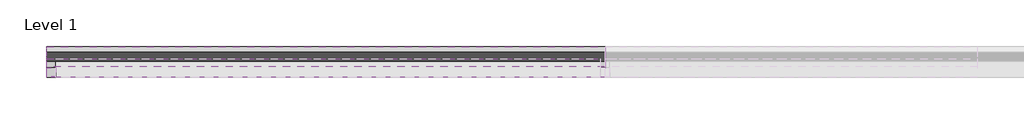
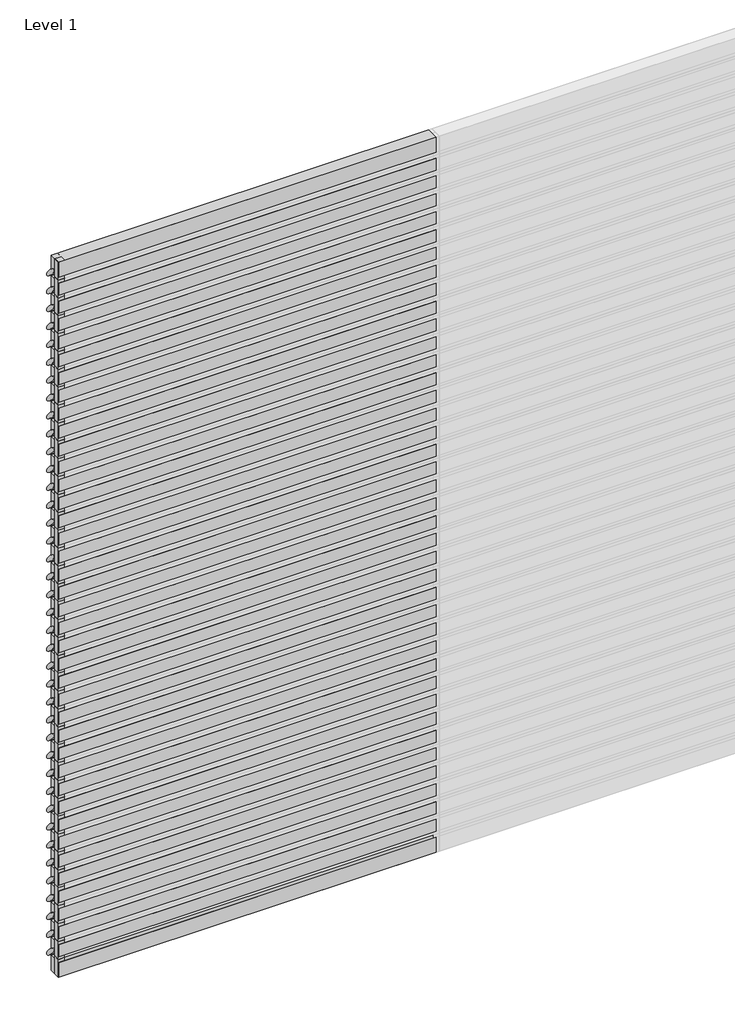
# One storey, part 1 of 3: 79 members, 41 plates.
"""IFC4 building model written with IfcOpenShell, lengths in millimetres."""

from ifc_helpers import new_model, si_unit, origin, place, context, project, spatial, transform, mapped, element, save
from components import rectangular_mullion_37c1fa86, rectangular_mullion_6265e8b1, empty_system_panel_empty_4bef3949, empty_system_panel_empty_2cee0f2e, empty_system_panel_empty_149e9d60

model = new_model("IFC4")

# Units and contexts
model_context = context("Model", 3, world=origin())
ifc_project = project(units=[si_unit("LENGTHUNIT", "METRE", prefix="MILLI")], contexts=[model_context])

# Site, building, storey
site = spatial("IfcSite", under=ifc_project)
building = spatial("IfcBuilding", under=site)
storey = spatial("IfcBuildingStorey", under=building, Name="Level 1", Elevation=0.0)

# Members
placement = place(None, origin())
rectangular_mullion_shape = rectangular_mullion_37c1fa86(model_context)
element("IfcMember", 1, ObjectType="Rectangular Mullion : RSen_21_CWM_blade - 150 ellips - 45°_gen_duco projects", at=placement, inside=storey, context=model_context, shape_type="MappedRepresentation", body=[
    mapped(rectangular_mullion_shape, transform((0.0, 3000.0, 150.0), x_axis=(0.0, 0.0, 1.0), y_axis=(0.0, 1.0, 0.0), z_axis=(-1.0, 0.0, 0.0))),
])
element("IfcMember", 2, ObjectType="Rectangular Mullion : RSen_21_CWM_blade - 150 ellips - 45°_gen_duco projects", at=placement, inside=storey, context=model_context, shape_type="MappedRepresentation", body=[
    mapped(rectangular_mullion_shape, transform((0.0, 3000.0, 300.0), x_axis=(0.0, 0.0, 1.0), y_axis=(0.0, 1.0, 0.0), z_axis=(-1.0, 0.0, 0.0))),
])
element("IfcMember", 3, ObjectType="Rectangular Mullion : RSen_21_CWM_blade - 150 ellips - 45°_gen_duco projects", at=placement, inside=storey, context=model_context, shape_type="MappedRepresentation", body=[
    mapped(rectangular_mullion_shape, transform((0.0, 3000.0, 450.0), x_axis=(0.0, 0.0, 1.0), y_axis=(0.0, 1.0, 0.0), z_axis=(-1.0, 0.0, 0.0))),
])
element("IfcMember", 4, ObjectType="Rectangular Mullion : RSen_21_CWM_blade - 150 ellips - 45°_gen_duco projects", at=placement, inside=storey, context=model_context, shape_type="MappedRepresentation", body=[
    mapped(rectangular_mullion_shape, transform((0.0, 3000.0, 600.0), x_axis=(0.0, 0.0, 1.0), y_axis=(0.0, 1.0, 0.0), z_axis=(-1.0, 0.0, 0.0))),
])
element("IfcMember", 5, ObjectType="Rectangular Mullion : RSen_21_CWM_blade - 150 ellips - 45°_gen_duco projects", at=placement, inside=storey, context=model_context, shape_type="MappedRepresentation", body=[
    mapped(rectangular_mullion_shape, transform((0.0, 3000.0, 750.0), x_axis=(0.0, 0.0, 1.0), y_axis=(0.0, 1.0, 0.0), z_axis=(-1.0, 0.0, 0.0))),
])
element("IfcMember", 6, ObjectType="Rectangular Mullion : RSen_21_CWM_blade - 150 ellips - 45°_gen_duco projects", at=placement, inside=storey, context=model_context, shape_type="MappedRepresentation", body=[
    mapped(rectangular_mullion_shape, transform((0.0, 3000.0, 900.0), x_axis=(0.0, 0.0, 1.0), y_axis=(0.0, 1.0, 0.0), z_axis=(-1.0, 0.0, 0.0))),
])
element("IfcMember", 7, ObjectType="Rectangular Mullion : RSen_21_CWM_blade - 150 ellips - 45°_gen_duco projects", at=placement, inside=storey, context=model_context, shape_type="MappedRepresentation", body=[
    mapped(rectangular_mullion_shape, transform((0.0, 3000.0, 1050.0), x_axis=(0.0, 0.0, 1.0), y_axis=(0.0, 1.0, 0.0), z_axis=(-1.0, 0.0, 0.0))),
])
element("IfcMember", 8, ObjectType="Rectangular Mullion : RSen_21_CWM_blade - 150 ellips - 45°_gen_duco projects", at=placement, inside=storey, context=model_context, shape_type="MappedRepresentation", body=[
    mapped(rectangular_mullion_shape, transform((0.0, 3000.0, 1200.0), x_axis=(0.0, 0.0, 1.0), y_axis=(0.0, 1.0, 0.0), z_axis=(-1.0, 0.0, 0.0))),
])
element("IfcMember", 9, ObjectType="Rectangular Mullion : RSen_21_CWM_blade - 150 ellips - 45°_gen_duco projects", at=placement, inside=storey, context=model_context, shape_type="MappedRepresentation", body=[
    mapped(rectangular_mullion_shape, transform((0.0, 3000.0, 1350.0), x_axis=(0.0, 0.0, 1.0), y_axis=(0.0, 1.0, 0.0), z_axis=(-1.0, 0.0, 0.0))),
])
element("IfcMember", 10, ObjectType="Rectangular Mullion : RSen_21_CWM_blade - 150 ellips - 45°_gen_duco projects", at=placement, inside=storey, context=model_context, shape_type="MappedRepresentation", body=[
    mapped(rectangular_mullion_shape, transform((0.0, 3000.0, 1500.0), x_axis=(0.0, 0.0, 1.0), y_axis=(0.0, 1.0, 0.0), z_axis=(-1.0, 0.0, 0.0))),
])
element("IfcMember", 11, ObjectType="Rectangular Mullion : RSen_21_CWM_blade - 150 ellips - 45°_gen_duco projects", at=placement, inside=storey, context=model_context, shape_type="MappedRepresentation", body=[
    mapped(rectangular_mullion_shape, transform((0.0, 3000.0, 1650.0), x_axis=(0.0, 0.0, 1.0), y_axis=(0.0, 1.0, 0.0), z_axis=(-1.0, 0.0, 0.0))),
])
element("IfcMember", 12, ObjectType="Rectangular Mullion : RSen_21_CWM_blade - 150 ellips - 45°_gen_duco projects", at=placement, inside=storey, context=model_context, shape_type="MappedRepresentation", body=[
    mapped(rectangular_mullion_shape, transform((0.0, 3000.0, 1800.0), x_axis=(0.0, 0.0, 1.0), y_axis=(0.0, 1.0, 0.0), z_axis=(-1.0, 0.0, 0.0))),
])
element("IfcMember", 13, ObjectType="Rectangular Mullion : RSen_21_CWM_blade - 150 ellips - 45°_gen_duco projects", at=placement, inside=storey, context=model_context, shape_type="MappedRepresentation", body=[
    mapped(rectangular_mullion_shape, transform((0.0, 3000.0, 1950.0), x_axis=(0.0, 0.0, 1.0), y_axis=(0.0, 1.0, 0.0), z_axis=(-1.0, 0.0, 0.0))),
])
element("IfcMember", 14, ObjectType="Rectangular Mullion : RSen_21_CWM_blade - 150 ellips - 45°_gen_duco projects", at=placement, inside=storey, context=model_context, shape_type="MappedRepresentation", body=[
    mapped(rectangular_mullion_shape, transform((0.0, 3000.0, 2100.0), x_axis=(0.0, 0.0, 1.0), y_axis=(0.0, 1.0, 0.0), z_axis=(-1.0, 0.0, 0.0))),
])
element("IfcMember", 15, ObjectType="Rectangular Mullion : RSen_21_CWM_blade - 150 ellips - 45°_gen_duco projects", at=placement, inside=storey, context=model_context, shape_type="MappedRepresentation", body=[
    mapped(rectangular_mullion_shape, transform((0.0, 3000.0, 2250.0), x_axis=(0.0, 0.0, 1.0), y_axis=(0.0, 1.0, 0.0), z_axis=(-1.0, 0.0, 0.0))),
])
element("IfcMember", 16, ObjectType="Rectangular Mullion : RSen_21_CWM_blade - 150 ellips - 45°_gen_duco projects", at=placement, inside=storey, context=model_context, shape_type="MappedRepresentation", body=[
    mapped(rectangular_mullion_shape, transform((0.0, 3000.0, 2400.0), x_axis=(0.0, 0.0, 1.0), y_axis=(0.0, 1.0, 0.0), z_axis=(-1.0, 0.0, 0.0))),
])
element("IfcMember", 17, ObjectType="Rectangular Mullion : RSen_21_CWM_blade - 150 ellips - 45°_gen_duco projects", at=placement, inside=storey, context=model_context, shape_type="MappedRepresentation", body=[
    mapped(rectangular_mullion_shape, transform((0.0, 3000.0, 2550.0), x_axis=(0.0, 0.0, 1.0), y_axis=(0.0, 1.0, 0.0), z_axis=(-1.0, 0.0, 0.0))),
])
element("IfcMember", 18, ObjectType="Rectangular Mullion : RSen_21_CWM_blade - 150 ellips - 45°_gen_duco projects", at=placement, inside=storey, context=model_context, shape_type="MappedRepresentation", body=[
    mapped(rectangular_mullion_shape, transform((0.0, 3000.0, 2700.0), x_axis=(0.0, 0.0, 1.0), y_axis=(0.0, 1.0, 0.0), z_axis=(-1.0, 0.0, 0.0))),
])
element("IfcMember", 19, ObjectType="Rectangular Mullion : RSen_21_CWM_blade - 150 ellips - 45°_gen_duco projects", at=placement, inside=storey, context=model_context, shape_type="MappedRepresentation", body=[
    mapped(rectangular_mullion_shape, transform((0.0, 3000.0, 2850.0), x_axis=(0.0, 0.0, 1.0), y_axis=(0.0, 1.0, 0.0), z_axis=(-1.0, 0.0, 0.0))),
])
element("IfcMember", 20, ObjectType="Rectangular Mullion : RSen_21_CWM_blade - 150 ellips - 45°_gen_duco projects", at=placement, inside=storey, context=model_context, shape_type="MappedRepresentation", body=[
    mapped(rectangular_mullion_shape, transform((0.0, 3000.0, 3000.0), x_axis=(0.0, 0.0, 1.0), y_axis=(0.0, 1.0, 0.0), z_axis=(-1.0, 0.0, 0.0))),
])
element("IfcMember", 21, ObjectType="Rectangular Mullion : RSen_21_CWM_blade - 150 ellips - 45°_gen_duco projects", at=placement, inside=storey, context=model_context, shape_type="MappedRepresentation", body=[
    mapped(rectangular_mullion_shape, transform((0.0, 3000.0, 3150.0), x_axis=(0.0, 0.0, 1.0), y_axis=(0.0, 1.0, 0.0), z_axis=(-1.0, 0.0, 0.0))),
])
element("IfcMember", 22, ObjectType="Rectangular Mullion : RSen_21_CWM_blade - 150 ellips - 45°_gen_duco projects", at=placement, inside=storey, context=model_context, shape_type="MappedRepresentation", body=[
    mapped(rectangular_mullion_shape, transform((0.0, 3000.0, 3300.0), x_axis=(0.0, 0.0, 1.0), y_axis=(0.0, 1.0, 0.0), z_axis=(-1.0, 0.0, 0.0))),
])
element("IfcMember", 23, ObjectType="Rectangular Mullion : RSen_21_CWM_blade - 150 ellips - 45°_gen_duco projects", at=placement, inside=storey, context=model_context, shape_type="MappedRepresentation", body=[
    mapped(rectangular_mullion_shape, transform((0.0, 3000.0, 3450.0), x_axis=(0.0, 0.0, 1.0), y_axis=(0.0, 1.0, 0.0), z_axis=(-1.0, 0.0, 0.0))),
])
element("IfcMember", 24, ObjectType="Rectangular Mullion : RSen_21_CWM_blade - 150 ellips - 45°_gen_duco projects", at=placement, inside=storey, context=model_context, shape_type="MappedRepresentation", body=[
    mapped(rectangular_mullion_shape, transform((0.0, 3000.0, 3600.0), x_axis=(0.0, 0.0, 1.0), y_axis=(0.0, 1.0, 0.0), z_axis=(-1.0, 0.0, 0.0))),
])
element("IfcMember", 25, ObjectType="Rectangular Mullion : RSen_21_CWM_blade - 150 ellips - 45°_gen_duco projects", at=placement, inside=storey, context=model_context, shape_type="MappedRepresentation", body=[
    mapped(rectangular_mullion_shape, transform((0.0, 3000.0, 3750.0), x_axis=(0.0, 0.0, 1.0), y_axis=(0.0, 1.0, 0.0), z_axis=(-1.0, 0.0, 0.0))),
])
element("IfcMember", 26, ObjectType="Rectangular Mullion : RSen_21_CWM_blade - 150 ellips - 45°_gen_duco projects", at=placement, inside=storey, context=model_context, shape_type="MappedRepresentation", body=[
    mapped(rectangular_mullion_shape, transform((0.0, 3000.0, 3900.0), x_axis=(0.0, 0.0, 1.0), y_axis=(0.0, 1.0, 0.0), z_axis=(-1.0, 0.0, 0.0))),
])
element("IfcMember", 27, ObjectType="Rectangular Mullion : RSen_21_CWM_blade - 150 ellips - 45°_gen_duco projects", at=placement, inside=storey, context=model_context, shape_type="MappedRepresentation", body=[
    mapped(rectangular_mullion_shape, transform((0.0, 3000.0, 4050.0), x_axis=(0.0, 0.0, 1.0), y_axis=(0.0, 1.0, 0.0), z_axis=(-1.0, 0.0, 0.0))),
])
element("IfcMember", 28, ObjectType="Rectangular Mullion : RSen_21_CWM_blade - 150 ellips - 45°_gen_duco projects", at=placement, inside=storey, context=model_context, shape_type="MappedRepresentation", body=[
    mapped(rectangular_mullion_shape, transform((0.0, 3000.0, 4200.0), x_axis=(0.0, 0.0, 1.0), y_axis=(0.0, 1.0, 0.0), z_axis=(-1.0, 0.0, 0.0))),
])
element("IfcMember", 29, ObjectType="Rectangular Mullion : RSen_21_CWM_blade - 150 ellips - 45°_gen_duco projects", at=placement, inside=storey, context=model_context, shape_type="MappedRepresentation", body=[
    mapped(rectangular_mullion_shape, transform((0.0, 3000.0, 4350.0), x_axis=(0.0, 0.0, 1.0), y_axis=(0.0, 1.0, 0.0), z_axis=(-1.0, 0.0, 0.0))),
])
element("IfcMember", 30, ObjectType="Rectangular Mullion : RSen_21_CWM_blade - 150 ellips - 45°_gen_duco projects", at=placement, inside=storey, context=model_context, shape_type="MappedRepresentation", body=[
    mapped(rectangular_mullion_shape, transform((0.0, 3000.0, 4500.0), x_axis=(0.0, 0.0, 1.0), y_axis=(0.0, 1.0, 0.0), z_axis=(-1.0, 0.0, 0.0))),
])
element("IfcMember", 31, ObjectType="Rectangular Mullion : RSen_21_CWM_blade - 150 ellips - 45°_gen_duco projects", at=placement, inside=storey, context=model_context, shape_type="MappedRepresentation", body=[
    mapped(rectangular_mullion_shape, transform((0.0, 3000.0, 4650.0), x_axis=(0.0, 0.0, 1.0), y_axis=(0.0, 1.0, 0.0), z_axis=(-1.0, 0.0, 0.0))),
])
element("IfcMember", 32, ObjectType="Rectangular Mullion : RSen_21_CWM_blade - 150 ellips - 45°_gen_duco projects", at=placement, inside=storey, context=model_context, shape_type="MappedRepresentation", body=[
    mapped(rectangular_mullion_shape, transform((0.0, 3000.0, 4800.0), x_axis=(0.0, 0.0, 1.0), y_axis=(0.0, 1.0, 0.0), z_axis=(-1.0, 0.0, 0.0))),
])
element("IfcMember", 33, ObjectType="Rectangular Mullion : RSen_21_CWM_blade - 150 ellips - 45°_gen_duco projects", at=placement, inside=storey, context=model_context, shape_type="MappedRepresentation", body=[
    mapped(rectangular_mullion_shape, transform((0.0, 3000.0, 4950.0), x_axis=(0.0, 0.0, 1.0), y_axis=(0.0, 1.0, 0.0), z_axis=(-1.0, 0.0, 0.0))),
])
element("IfcMember", 34, ObjectType="Rectangular Mullion : RSen_21_CWM_blade - 150 ellips - 45°_gen_duco projects", at=placement, inside=storey, context=model_context, shape_type="MappedRepresentation", body=[
    mapped(rectangular_mullion_shape, transform((0.0, 3000.0, 5100.0), x_axis=(0.0, 0.0, 1.0), y_axis=(0.0, 1.0, 0.0), z_axis=(-1.0, 0.0, 0.0))),
])
element("IfcMember", 35, ObjectType="Rectangular Mullion : RSen_21_CWM_blade - 150 ellips - 45°_gen_duco projects", at=placement, inside=storey, context=model_context, shape_type="MappedRepresentation", body=[
    mapped(rectangular_mullion_shape, transform((0.0, 3000.0, 5250.0), x_axis=(0.0, 0.0, 1.0), y_axis=(0.0, 1.0, 0.0), z_axis=(-1.0, 0.0, 0.0))),
])
element("IfcMember", 36, ObjectType="Rectangular Mullion : RSen_21_CWM_blade - 150 ellips - 45°_gen_duco projects", at=placement, inside=storey, context=model_context, shape_type="MappedRepresentation", body=[
    mapped(rectangular_mullion_shape, transform((0.0, 3000.0, 5400.0), x_axis=(0.0, 0.0, 1.0), y_axis=(0.0, 1.0, 0.0), z_axis=(-1.0, 0.0, 0.0))),
])
element("IfcMember", 37, ObjectType="Rectangular Mullion : RSen_21_CWM_blade - 150 ellips - 45°_gen_duco projects", at=placement, inside=storey, context=model_context, shape_type="MappedRepresentation", body=[
    mapped(rectangular_mullion_shape, transform((0.0, 3000.0, 5550.0), x_axis=(0.0, 0.0, 1.0), y_axis=(0.0, 1.0, 0.0), z_axis=(-1.0, 0.0, 0.0))),
])
element("IfcMember", 38, ObjectType="Rectangular Mullion : RSen_21_CWM_blade - 150 ellips - 45°_gen_duco projects", at=placement, inside=storey, context=model_context, shape_type="MappedRepresentation", body=[
    mapped(rectangular_mullion_shape, transform((0.0, 3000.0, 5700.0), x_axis=(0.0, 0.0, 1.0), y_axis=(0.0, 1.0, 0.0), z_axis=(-1.0, 0.0, 0.0))),
])
element("IfcMember", 39, ObjectType="Rectangular Mullion : RSen_21_CWM_blade - 150 ellips - 45°_gen_duco projects", at=placement, inside=storey, context=model_context, shape_type="MappedRepresentation", body=[
    mapped(rectangular_mullion_shape, transform((0.0, 3000.0, 5850.0), x_axis=(0.0, 0.0, 1.0), y_axis=(0.0, 1.0, 0.0), z_axis=(-1.0, 0.0, 0.0))),
])
rectangular_mullion_2_shape = rectangular_mullion_6265e8b1(model_context)
element("IfcMember", 40, ObjectType="Rectangular Mullion : RSen_21_CWM_support profile 50x50 - left_gen_duco projects", at=placement, inside=storey, context=model_context, shape_type="MappedRepresentation", body=[
    mapped(rectangular_mullion_2_shape, transform((0.0, 3000.0, 0.0), x_axis=(-1.0, 0.0, 0.0), y_axis=(0.0, 1.0, 0.0), z_axis=(0.0, 0.0, -1.0))),
])
element("IfcMember", 41, ObjectType="Rectangular Mullion : RSen_21_CWM_support profile 50x50 - left_gen_duco projects", at=placement, inside=storey, context=model_context, shape_type="MappedRepresentation", body=[
    mapped(rectangular_mullion_2_shape, transform((0.0, 3000.0, 150.0), x_axis=(-1.0, 0.0, 0.0), y_axis=(0.0, 1.0, 0.0), z_axis=(0.0, 0.0, -1.0))),
])
element("IfcMember", 42, ObjectType="Rectangular Mullion : RSen_21_CWM_support profile 50x50 - left_gen_duco projects", at=placement, inside=storey, context=model_context, shape_type="MappedRepresentation", body=[
    mapped(rectangular_mullion_2_shape, transform((0.0, 3000.0, 300.0), x_axis=(-1.0, 0.0, 0.0), y_axis=(0.0, 1.0, 0.0), z_axis=(0.0, 0.0, -1.0))),
])
element("IfcMember", 43, ObjectType="Rectangular Mullion : RSen_21_CWM_support profile 50x50 - left_gen_duco projects", at=placement, inside=storey, context=model_context, shape_type="MappedRepresentation", body=[
    mapped(rectangular_mullion_2_shape, transform((0.0, 3000.0, 450.0), x_axis=(-1.0, 0.0, 0.0), y_axis=(0.0, 1.0, 0.0), z_axis=(0.0, 0.0, -1.0))),
])
element("IfcMember", 44, ObjectType="Rectangular Mullion : RSen_21_CWM_support profile 50x50 - left_gen_duco projects", at=placement, inside=storey, context=model_context, shape_type="MappedRepresentation", body=[
    mapped(rectangular_mullion_2_shape, transform((0.0, 3000.0, 600.0), x_axis=(-1.0, 0.0, 0.0), y_axis=(0.0, 1.0, 0.0), z_axis=(0.0, 0.0, -1.0))),
])
element("IfcMember", 45, ObjectType="Rectangular Mullion : RSen_21_CWM_support profile 50x50 - left_gen_duco projects", at=placement, inside=storey, context=model_context, shape_type="MappedRepresentation", body=[
    mapped(rectangular_mullion_2_shape, transform((0.0, 3000.0, 750.0), x_axis=(-1.0, 0.0, 0.0), y_axis=(0.0, 1.0, 0.0), z_axis=(0.0, 0.0, -1.0))),
])
element("IfcMember", 46, ObjectType="Rectangular Mullion : RSen_21_CWM_support profile 50x50 - left_gen_duco projects", at=placement, inside=storey, context=model_context, shape_type="MappedRepresentation", body=[
    mapped(rectangular_mullion_2_shape, transform((0.0, 3000.0, 900.0), x_axis=(-1.0, 0.0, 0.0), y_axis=(0.0, 1.0, 0.0), z_axis=(0.0, 0.0, -1.0))),
])
element("IfcMember", 47, ObjectType="Rectangular Mullion : RSen_21_CWM_support profile 50x50 - left_gen_duco projects", at=placement, inside=storey, context=model_context, shape_type="MappedRepresentation", body=[
    mapped(rectangular_mullion_2_shape, transform((0.0, 3000.0, 1050.0), x_axis=(-1.0, 0.0, 0.0), y_axis=(0.0, 1.0, 0.0), z_axis=(0.0, 0.0, -1.0))),
])
element("IfcMember", 48, ObjectType="Rectangular Mullion : RSen_21_CWM_support profile 50x50 - left_gen_duco projects", at=placement, inside=storey, context=model_context, shape_type="MappedRepresentation", body=[
    mapped(rectangular_mullion_2_shape, transform((0.0, 3000.0, 1200.0), x_axis=(-1.0, 0.0, 0.0), y_axis=(0.0, 1.0, 0.0), z_axis=(0.0, 0.0, -1.0))),
])
element("IfcMember", 49, ObjectType="Rectangular Mullion : RSen_21_CWM_support profile 50x50 - left_gen_duco projects", at=placement, inside=storey, context=model_context, shape_type="MappedRepresentation", body=[
    mapped(rectangular_mullion_2_shape, transform((0.0, 3000.0, 1350.0), x_axis=(-1.0, 0.0, 0.0), y_axis=(0.0, 1.0, 0.0), z_axis=(0.0, 0.0, -1.0))),
])
element("IfcMember", 50, ObjectType="Rectangular Mullion : RSen_21_CWM_support profile 50x50 - left_gen_duco projects", at=placement, inside=storey, context=model_context, shape_type="MappedRepresentation", body=[
    mapped(rectangular_mullion_2_shape, transform((0.0, 3000.0, 1500.0), x_axis=(-1.0, 0.0, 0.0), y_axis=(0.0, 1.0, 0.0), z_axis=(0.0, 0.0, -1.0))),
])
element("IfcMember", 51, ObjectType="Rectangular Mullion : RSen_21_CWM_support profile 50x50 - left_gen_duco projects", at=placement, inside=storey, context=model_context, shape_type="MappedRepresentation", body=[
    mapped(rectangular_mullion_2_shape, transform((0.0, 3000.0, 1650.0), x_axis=(-1.0, 0.0, 0.0), y_axis=(0.0, 1.0, 0.0), z_axis=(0.0, 0.0, -1.0))),
])
element("IfcMember", 52, ObjectType="Rectangular Mullion : RSen_21_CWM_support profile 50x50 - left_gen_duco projects", at=placement, inside=storey, context=model_context, shape_type="MappedRepresentation", body=[
    mapped(rectangular_mullion_2_shape, transform((0.0, 3000.0, 1800.0), x_axis=(-1.0, 0.0, 0.0), y_axis=(0.0, 1.0, 0.0), z_axis=(0.0, 0.0, -1.0))),
])
element("IfcMember", 53, ObjectType="Rectangular Mullion : RSen_21_CWM_support profile 50x50 - left_gen_duco projects", at=placement, inside=storey, context=model_context, shape_type="MappedRepresentation", body=[
    mapped(rectangular_mullion_2_shape, transform((0.0, 3000.0, 1950.0), x_axis=(-1.0, 0.0, 0.0), y_axis=(0.0, 1.0, 0.0), z_axis=(0.0, 0.0, -1.0))),
])
element("IfcMember", 54, ObjectType="Rectangular Mullion : RSen_21_CWM_support profile 50x50 - left_gen_duco projects", at=placement, inside=storey, context=model_context, shape_type="MappedRepresentation", body=[
    mapped(rectangular_mullion_2_shape, transform((0.0, 3000.0, 2100.0), x_axis=(-1.0, 0.0, 0.0), y_axis=(0.0, 1.0, 0.0), z_axis=(0.0, 0.0, -1.0))),
])
element("IfcMember", 55, ObjectType="Rectangular Mullion : RSen_21_CWM_support profile 50x50 - left_gen_duco projects", at=placement, inside=storey, context=model_context, shape_type="MappedRepresentation", body=[
    mapped(rectangular_mullion_2_shape, transform((0.0, 3000.0, 2250.0), x_axis=(-1.0, 0.0, 0.0), y_axis=(0.0, 1.0, 0.0), z_axis=(0.0, 0.0, -1.0))),
])
element("IfcMember", 56, ObjectType="Rectangular Mullion : RSen_21_CWM_support profile 50x50 - left_gen_duco projects", at=placement, inside=storey, context=model_context, shape_type="MappedRepresentation", body=[
    mapped(rectangular_mullion_2_shape, transform((0.0, 3000.0, 2400.0), x_axis=(-1.0, 0.0, 0.0), y_axis=(0.0, 1.0, 0.0), z_axis=(0.0, 0.0, -1.0))),
])
element("IfcMember", 57, ObjectType="Rectangular Mullion : RSen_21_CWM_support profile 50x50 - left_gen_duco projects", at=placement, inside=storey, context=model_context, shape_type="MappedRepresentation", body=[
    mapped(rectangular_mullion_2_shape, transform((0.0, 3000.0, 2550.0), x_axis=(-1.0, 0.0, 0.0), y_axis=(0.0, 1.0, 0.0), z_axis=(0.0, 0.0, -1.0))),
])
element("IfcMember", 58, ObjectType="Rectangular Mullion : RSen_21_CWM_support profile 50x50 - left_gen_duco projects", at=placement, inside=storey, context=model_context, shape_type="MappedRepresentation", body=[
    mapped(rectangular_mullion_2_shape, transform((0.0, 3000.0, 2700.0), x_axis=(-1.0, 0.0, 0.0), y_axis=(0.0, 1.0, 0.0), z_axis=(0.0, 0.0, -1.0))),
])
element("IfcMember", 59, ObjectType="Rectangular Mullion : RSen_21_CWM_support profile 50x50 - left_gen_duco projects", at=placement, inside=storey, context=model_context, shape_type="MappedRepresentation", body=[
    mapped(rectangular_mullion_2_shape, transform((0.0, 3000.0, 2850.0), x_axis=(-1.0, 0.0, 0.0), y_axis=(0.0, 1.0, 0.0), z_axis=(0.0, 0.0, -1.0))),
])
element("IfcMember", 60, ObjectType="Rectangular Mullion : RSen_21_CWM_support profile 50x50 - left_gen_duco projects", at=placement, inside=storey, context=model_context, shape_type="MappedRepresentation", body=[
    mapped(rectangular_mullion_2_shape, transform((0.0, 3000.0, 3000.0), x_axis=(-1.0, 0.0, 0.0), y_axis=(0.0, 1.0, 0.0), z_axis=(0.0, 0.0, -1.0))),
])
element("IfcMember", 61, ObjectType="Rectangular Mullion : RSen_21_CWM_support profile 50x50 - left_gen_duco projects", at=placement, inside=storey, context=model_context, shape_type="MappedRepresentation", body=[
    mapped(rectangular_mullion_2_shape, transform((0.0, 3000.0, 3150.0), x_axis=(-1.0, 0.0, 0.0), y_axis=(0.0, 1.0, 0.0), z_axis=(0.0, 0.0, -1.0))),
])
element("IfcMember", 62, ObjectType="Rectangular Mullion : RSen_21_CWM_support profile 50x50 - left_gen_duco projects", at=placement, inside=storey, context=model_context, shape_type="MappedRepresentation", body=[
    mapped(rectangular_mullion_2_shape, transform((0.0, 3000.0, 3300.0), x_axis=(-1.0, 0.0, 0.0), y_axis=(0.0, 1.0, 0.0), z_axis=(0.0, 0.0, -1.0))),
])
element("IfcMember", 63, ObjectType="Rectangular Mullion : RSen_21_CWM_support profile 50x50 - left_gen_duco projects", at=placement, inside=storey, context=model_context, shape_type="MappedRepresentation", body=[
    mapped(rectangular_mullion_2_shape, transform((0.0, 3000.0, 3450.0), x_axis=(-1.0, 0.0, 0.0), y_axis=(0.0, 1.0, 0.0), z_axis=(0.0, 0.0, -1.0))),
])
element("IfcMember", 64, ObjectType="Rectangular Mullion : RSen_21_CWM_support profile 50x50 - left_gen_duco projects", at=placement, inside=storey, context=model_context, shape_type="MappedRepresentation", body=[
    mapped(rectangular_mullion_2_shape, transform((0.0, 3000.0, 3600.0), x_axis=(-1.0, 0.0, 0.0), y_axis=(0.0, 1.0, 0.0), z_axis=(0.0, 0.0, -1.0))),
])
element("IfcMember", 65, ObjectType="Rectangular Mullion : RSen_21_CWM_support profile 50x50 - left_gen_duco projects", at=placement, inside=storey, context=model_context, shape_type="MappedRepresentation", body=[
    mapped(rectangular_mullion_2_shape, transform((0.0, 3000.0, 3750.0), x_axis=(-1.0, 0.0, 0.0), y_axis=(0.0, 1.0, 0.0), z_axis=(0.0, 0.0, -1.0))),
])
element("IfcMember", 66, ObjectType="Rectangular Mullion : RSen_21_CWM_support profile 50x50 - left_gen_duco projects", at=placement, inside=storey, context=model_context, shape_type="MappedRepresentation", body=[
    mapped(rectangular_mullion_2_shape, transform((0.0, 3000.0, 3900.0), x_axis=(-1.0, 0.0, 0.0), y_axis=(0.0, 1.0, 0.0), z_axis=(0.0, 0.0, -1.0))),
])
element("IfcMember", 67, ObjectType="Rectangular Mullion : RSen_21_CWM_support profile 50x50 - left_gen_duco projects", at=placement, inside=storey, context=model_context, shape_type="MappedRepresentation", body=[
    mapped(rectangular_mullion_2_shape, transform((0.0, 3000.0, 4050.0), x_axis=(-1.0, 0.0, 0.0), y_axis=(0.0, 1.0, 0.0), z_axis=(0.0, 0.0, -1.0))),
])
element("IfcMember", 68, ObjectType="Rectangular Mullion : RSen_21_CWM_support profile 50x50 - left_gen_duco projects", at=placement, inside=storey, context=model_context, shape_type="MappedRepresentation", body=[
    mapped(rectangular_mullion_2_shape, transform((0.0, 3000.0, 4200.0), x_axis=(-1.0, 0.0, 0.0), y_axis=(0.0, 1.0, 0.0), z_axis=(0.0, 0.0, -1.0))),
])
element("IfcMember", 69, ObjectType="Rectangular Mullion : RSen_21_CWM_support profile 50x50 - left_gen_duco projects", at=placement, inside=storey, context=model_context, shape_type="MappedRepresentation", body=[
    mapped(rectangular_mullion_2_shape, transform((0.0, 3000.0, 4350.0), x_axis=(-1.0, 0.0, 0.0), y_axis=(0.0, 1.0, 0.0), z_axis=(0.0, 0.0, -1.0))),
])
element("IfcMember", 70, ObjectType="Rectangular Mullion : RSen_21_CWM_support profile 50x50 - left_gen_duco projects", at=placement, inside=storey, context=model_context, shape_type="MappedRepresentation", body=[
    mapped(rectangular_mullion_2_shape, transform((0.0, 3000.0, 4500.0), x_axis=(-1.0, 0.0, 0.0), y_axis=(0.0, 1.0, 0.0), z_axis=(0.0, 0.0, -1.0))),
])
element("IfcMember", 71, ObjectType="Rectangular Mullion : RSen_21_CWM_support profile 50x50 - left_gen_duco projects", at=placement, inside=storey, context=model_context, shape_type="MappedRepresentation", body=[
    mapped(rectangular_mullion_2_shape, transform((0.0, 3000.0, 4650.0), x_axis=(-1.0, 0.0, 0.0), y_axis=(0.0, 1.0, 0.0), z_axis=(0.0, 0.0, -1.0))),
])
element("IfcMember", 72, ObjectType="Rectangular Mullion : RSen_21_CWM_support profile 50x50 - left_gen_duco projects", at=placement, inside=storey, context=model_context, shape_type="MappedRepresentation", body=[
    mapped(rectangular_mullion_2_shape, transform((0.0, 3000.0, 4800.0), x_axis=(-1.0, 0.0, 0.0), y_axis=(0.0, 1.0, 0.0), z_axis=(0.0, 0.0, -1.0))),
])
element("IfcMember", 73, ObjectType="Rectangular Mullion : RSen_21_CWM_support profile 50x50 - left_gen_duco projects", at=placement, inside=storey, context=model_context, shape_type="MappedRepresentation", body=[
    mapped(rectangular_mullion_2_shape, transform((0.0, 3000.0, 4950.0), x_axis=(-1.0, 0.0, 0.0), y_axis=(0.0, 1.0, 0.0), z_axis=(0.0, 0.0, -1.0))),
])
element("IfcMember", 74, ObjectType="Rectangular Mullion : RSen_21_CWM_support profile 50x50 - left_gen_duco projects", at=placement, inside=storey, context=model_context, shape_type="MappedRepresentation", body=[
    mapped(rectangular_mullion_2_shape, transform((0.0, 3000.0, 5100.0), x_axis=(-1.0, 0.0, 0.0), y_axis=(0.0, 1.0, 0.0), z_axis=(0.0, 0.0, -1.0))),
])
element("IfcMember", 75, ObjectType="Rectangular Mullion : RSen_21_CWM_support profile 50x50 - left_gen_duco projects", at=placement, inside=storey, context=model_context, shape_type="MappedRepresentation", body=[
    mapped(rectangular_mullion_2_shape, transform((0.0, 3000.0, 5250.0), x_axis=(-1.0, 0.0, 0.0), y_axis=(0.0, 1.0, 0.0), z_axis=(0.0, 0.0, -1.0))),
])
element("IfcMember", 76, ObjectType="Rectangular Mullion : RSen_21_CWM_support profile 50x50 - left_gen_duco projects", at=placement, inside=storey, context=model_context, shape_type="MappedRepresentation", body=[
    mapped(rectangular_mullion_2_shape, transform((0.0, 3000.0, 5400.0), x_axis=(-1.0, 0.0, 0.0), y_axis=(0.0, 1.0, 0.0), z_axis=(0.0, 0.0, -1.0))),
])
element("IfcMember", 77, ObjectType="Rectangular Mullion : RSen_21_CWM_support profile 50x50 - left_gen_duco projects", at=placement, inside=storey, context=model_context, shape_type="MappedRepresentation", body=[
    mapped(rectangular_mullion_2_shape, transform((0.0, 3000.0, 5550.0), x_axis=(-1.0, 0.0, 0.0), y_axis=(0.0, 1.0, 0.0), z_axis=(0.0, 0.0, -1.0))),
])
element("IfcMember", 78, ObjectType="Rectangular Mullion : RSen_21_CWM_support profile 50x50 - left_gen_duco projects", at=placement, inside=storey, context=model_context, shape_type="MappedRepresentation", body=[
    mapped(rectangular_mullion_2_shape, transform((0.0, 3000.0, 5700.0), x_axis=(-1.0, 0.0, 0.0), y_axis=(0.0, 1.0, 0.0), z_axis=(0.0, 0.0, -1.0))),
])
element("IfcMember", 79, ObjectType="Rectangular Mullion : RSen_21_CWM_support profile 50x50 - left_gen_duco projects", at=placement, inside=storey, context=model_context, shape_type="MappedRepresentation", body=[
    mapped(rectangular_mullion_2_shape, transform((0.0, 3000.0, 5850.0), x_axis=(-1.0, 0.0, 0.0), y_axis=(0.0, 1.0, 0.0), z_axis=(0.0, 0.0, -1.0))),
])

# Plates
empty_system_panel_empty_shape = empty_system_panel_empty_4bef3949(model_context)
element("IfcPlate", 80, ObjectType="Empty System Panel : Empty", at=placement, inside=storey, context=model_context, shape_type="MappedRepresentation", body=[
    mapped(empty_system_panel_empty_shape, transform((1500.0, 3000.0, 0.0), x_axis=(-1.0, 0.0, 0.0), y_axis=(0.0, -1.0, 0.0), z_axis=(0.0, 0.0, 1.0))),
])
element("IfcPlate", 81, ObjectType="Empty System Panel : Empty", at=placement, inside=storey, context=model_context, shape_type="MappedRepresentation", body=[
    mapped(empty_system_panel_empty_shape, transform((1500.0, 3000.0, 5874.7487373), x_axis=(-1.0, 0.0, 0.0), y_axis=(0.0, -1.0, 0.0), z_axis=(0.0, 0.0, 1.0))),
])
empty_system_panel_empty_2_shape = empty_system_panel_empty_2cee0f2e(model_context)
element("IfcPlate", 82, ObjectType="Empty System Panel : Empty", at=placement, inside=storey, context=model_context, shape_type="MappedRepresentation", body=[
    mapped(empty_system_panel_empty_2_shape, transform((1500.0, 3000.0, 174.7487373), x_axis=(-1.0, 0.0, 0.0), y_axis=(0.0, -1.0, 0.0), z_axis=(0.0, 0.0, 1.0))),
])
element("IfcPlate", 83, ObjectType="Empty System Panel : Empty", at=placement, inside=storey, context=model_context, shape_type="MappedRepresentation", body=[
    mapped(empty_system_panel_empty_2_shape, transform((1500.0, 3000.0, 324.7487373), x_axis=(-1.0, 0.0, 0.0), y_axis=(0.0, -1.0, 0.0), z_axis=(0.0, 0.0, 1.0))),
])
element("IfcPlate", 84, ObjectType="Empty System Panel : Empty", at=placement, inside=storey, context=model_context, shape_type="MappedRepresentation", body=[
    mapped(empty_system_panel_empty_2_shape, transform((1500.0, 3000.0, 474.7487373), x_axis=(-1.0, 0.0, 0.0), y_axis=(0.0, -1.0, 0.0), z_axis=(0.0, 0.0, 1.0))),
])
element("IfcPlate", 85, ObjectType="Empty System Panel : Empty", at=placement, inside=storey, context=model_context, shape_type="MappedRepresentation", body=[
    mapped(empty_system_panel_empty_2_shape, transform((1500.0, 3000.0, 624.7487373), x_axis=(-1.0, 0.0, 0.0), y_axis=(0.0, -1.0, 0.0), z_axis=(0.0, 0.0, 1.0))),
])
element("IfcPlate", 86, ObjectType="Empty System Panel : Empty", at=placement, inside=storey, context=model_context, shape_type="MappedRepresentation", body=[
    mapped(empty_system_panel_empty_2_shape, transform((1500.0, 3000.0, 774.7487373), x_axis=(-1.0, 0.0, 0.0), y_axis=(0.0, -1.0, 0.0), z_axis=(0.0, 0.0, 1.0))),
])
element("IfcPlate", 87, ObjectType="Empty System Panel : Empty", at=placement, inside=storey, context=model_context, shape_type="MappedRepresentation", body=[
    mapped(empty_system_panel_empty_2_shape, transform((1500.0, 3000.0, 924.7487373), x_axis=(-1.0, 0.0, 0.0), y_axis=(0.0, -1.0, 0.0), z_axis=(0.0, 0.0, 1.0))),
])
element("IfcPlate", 88, ObjectType="Empty System Panel : Empty", at=placement, inside=storey, context=model_context, shape_type="MappedRepresentation", body=[
    mapped(empty_system_panel_empty_2_shape, transform((1500.0, 3000.0, 1074.7487373), x_axis=(-1.0, 0.0, 0.0), y_axis=(0.0, -1.0, 0.0), z_axis=(0.0, 0.0, 1.0))),
])
element("IfcPlate", 89, ObjectType="Empty System Panel : Empty", at=placement, inside=storey, context=model_context, shape_type="MappedRepresentation", body=[
    mapped(empty_system_panel_empty_2_shape, transform((1500.0, 3000.0, 1224.7487373), x_axis=(-1.0, 0.0, 0.0), y_axis=(0.0, -1.0, 0.0), z_axis=(0.0, 0.0, 1.0))),
])
element("IfcPlate", 90, ObjectType="Empty System Panel : Empty", at=placement, inside=storey, context=model_context, shape_type="MappedRepresentation", body=[
    mapped(empty_system_panel_empty_2_shape, transform((1500.0, 3000.0, 1374.7487373), x_axis=(-1.0, 0.0, 0.0), y_axis=(0.0, -1.0, 0.0), z_axis=(0.0, 0.0, 1.0))),
])
element("IfcPlate", 91, ObjectType="Empty System Panel : Empty", at=placement, inside=storey, context=model_context, shape_type="MappedRepresentation", body=[
    mapped(empty_system_panel_empty_2_shape, transform((1500.0, 3000.0, 1524.7487373), x_axis=(-1.0, 0.0, 0.0), y_axis=(0.0, -1.0, 0.0), z_axis=(0.0, 0.0, 1.0))),
])
element("IfcPlate", 92, ObjectType="Empty System Panel : Empty", at=placement, inside=storey, context=model_context, shape_type="MappedRepresentation", body=[
    mapped(empty_system_panel_empty_2_shape, transform((1500.0, 3000.0, 1674.7487373), x_axis=(-1.0, 0.0, 0.0), y_axis=(0.0, -1.0, 0.0), z_axis=(0.0, 0.0, 1.0))),
])
element("IfcPlate", 93, ObjectType="Empty System Panel : Empty", at=placement, inside=storey, context=model_context, shape_type="MappedRepresentation", body=[
    mapped(empty_system_panel_empty_2_shape, transform((1500.0, 3000.0, 1824.7487373), x_axis=(-1.0, 0.0, 0.0), y_axis=(0.0, -1.0, 0.0), z_axis=(0.0, 0.0, 1.0))),
])
element("IfcPlate", 94, ObjectType="Empty System Panel : Empty", at=placement, inside=storey, context=model_context, shape_type="MappedRepresentation", body=[
    mapped(empty_system_panel_empty_2_shape, transform((1500.0, 3000.0, 1974.7487373), x_axis=(-1.0, 0.0, 0.0), y_axis=(0.0, -1.0, 0.0), z_axis=(0.0, 0.0, 1.0))),
])
element("IfcPlate", 95, ObjectType="Empty System Panel : Empty", at=placement, inside=storey, context=model_context, shape_type="MappedRepresentation", body=[
    mapped(empty_system_panel_empty_2_shape, transform((1500.0, 3000.0, 2124.7487373), x_axis=(-1.0, 0.0, 0.0), y_axis=(0.0, -1.0, 0.0), z_axis=(0.0, 0.0, 1.0))),
])
element("IfcPlate", 96, ObjectType="Empty System Panel : Empty", at=placement, inside=storey, context=model_context, shape_type="MappedRepresentation", body=[
    mapped(empty_system_panel_empty_2_shape, transform((1500.0, 3000.0, 2274.7487373), x_axis=(-1.0, 0.0, 0.0), y_axis=(0.0, -1.0, 0.0), z_axis=(0.0, 0.0, 1.0))),
])
element("IfcPlate", 97, ObjectType="Empty System Panel : Empty", at=placement, inside=storey, context=model_context, shape_type="MappedRepresentation", body=[
    mapped(empty_system_panel_empty_2_shape, transform((1500.0, 3000.0, 2424.7487373), x_axis=(-1.0, 0.0, 0.0), y_axis=(0.0, -1.0, 0.0), z_axis=(0.0, 0.0, 1.0))),
])
element("IfcPlate", 98, ObjectType="Empty System Panel : Empty", at=placement, inside=storey, context=model_context, shape_type="MappedRepresentation", body=[
    mapped(empty_system_panel_empty_2_shape, transform((1500.0, 3000.0, 2574.7487373), x_axis=(-1.0, 0.0, 0.0), y_axis=(0.0, -1.0, 0.0), z_axis=(0.0, 0.0, 1.0))),
])
element("IfcPlate", 99, ObjectType="Empty System Panel : Empty", at=placement, inside=storey, context=model_context, shape_type="MappedRepresentation", body=[
    mapped(empty_system_panel_empty_2_shape, transform((1500.0, 3000.0, 2724.7487373), x_axis=(-1.0, 0.0, 0.0), y_axis=(0.0, -1.0, 0.0), z_axis=(0.0, 0.0, 1.0))),
])
element("IfcPlate", 100, ObjectType="Empty System Panel : Empty", at=placement, inside=storey, context=model_context, shape_type="MappedRepresentation", body=[
    mapped(empty_system_panel_empty_2_shape, transform((1500.0, 3000.0, 2874.7487373), x_axis=(-1.0, 0.0, 0.0), y_axis=(0.0, -1.0, 0.0), z_axis=(0.0, 0.0, 1.0))),
])
element("IfcPlate", 101, ObjectType="Empty System Panel : Empty", at=placement, inside=storey, context=model_context, shape_type="MappedRepresentation", body=[
    mapped(empty_system_panel_empty_2_shape, transform((1500.0, 3000.0, 3024.7487373), x_axis=(-1.0, 0.0, 0.0), y_axis=(0.0, -1.0, 0.0), z_axis=(0.0, 0.0, 1.0))),
])
element("IfcPlate", 102, ObjectType="Empty System Panel : Empty", at=placement, inside=storey, context=model_context, shape_type="MappedRepresentation", body=[
    mapped(empty_system_panel_empty_2_shape, transform((1500.0, 3000.0, 3174.7487373), x_axis=(-1.0, 0.0, 0.0), y_axis=(0.0, -1.0, 0.0), z_axis=(0.0, 0.0, 1.0))),
])
element("IfcPlate", 103, ObjectType="Empty System Panel : Empty", at=placement, inside=storey, context=model_context, shape_type="MappedRepresentation", body=[
    mapped(empty_system_panel_empty_2_shape, transform((1500.0, 3000.0, 3324.7487373), x_axis=(-1.0, 0.0, 0.0), y_axis=(0.0, -1.0, 0.0), z_axis=(0.0, 0.0, 1.0))),
])
element("IfcPlate", 104, ObjectType="Empty System Panel : Empty", at=placement, inside=storey, context=model_context, shape_type="MappedRepresentation", body=[
    mapped(empty_system_panel_empty_2_shape, transform((1500.0, 3000.0, 3474.7487373), x_axis=(-1.0, 0.0, 0.0), y_axis=(0.0, -1.0, 0.0), z_axis=(0.0, 0.0, 1.0))),
])
element("IfcPlate", 105, ObjectType="Empty System Panel : Empty", at=placement, inside=storey, context=model_context, shape_type="MappedRepresentation", body=[
    mapped(empty_system_panel_empty_2_shape, transform((1500.0, 3000.0, 3624.7487373), x_axis=(-1.0, 0.0, 0.0), y_axis=(0.0, -1.0, 0.0), z_axis=(0.0, 0.0, 1.0))),
])
element("IfcPlate", 106, ObjectType="Empty System Panel : Empty", at=placement, inside=storey, context=model_context, shape_type="MappedRepresentation", body=[
    mapped(empty_system_panel_empty_2_shape, transform((1500.0, 3000.0, 3774.7487373), x_axis=(-1.0, 0.0, 0.0), y_axis=(0.0, -1.0, 0.0), z_axis=(0.0, 0.0, 1.0))),
])
element("IfcPlate", 107, ObjectType="Empty System Panel : Empty", at=placement, inside=storey, context=model_context, shape_type="MappedRepresentation", body=[
    mapped(empty_system_panel_empty_2_shape, transform((1500.0, 3000.0, 3924.7487373), x_axis=(-1.0, 0.0, 0.0), y_axis=(0.0, -1.0, 0.0), z_axis=(0.0, 0.0, 1.0))),
])
element("IfcPlate", 108, ObjectType="Empty System Panel : Empty", at=placement, inside=storey, context=model_context, shape_type="MappedRepresentation", body=[
    mapped(empty_system_panel_empty_2_shape, transform((1500.0, 3000.0, 4074.7487373), x_axis=(-1.0, 0.0, 0.0), y_axis=(0.0, -1.0, 0.0), z_axis=(0.0, 0.0, 1.0))),
])
element("IfcPlate", 109, ObjectType="Empty System Panel : Empty", at=placement, inside=storey, context=model_context, shape_type="MappedRepresentation", body=[
    mapped(empty_system_panel_empty_2_shape, transform((1500.0, 3000.0, 4224.7487373), x_axis=(-1.0, 0.0, 0.0), y_axis=(0.0, -1.0, 0.0), z_axis=(0.0, 0.0, 1.0))),
])
element("IfcPlate", 110, ObjectType="Empty System Panel : Empty", at=placement, inside=storey, context=model_context, shape_type="MappedRepresentation", body=[
    mapped(empty_system_panel_empty_2_shape, transform((1500.0, 3000.0, 4374.7487373), x_axis=(-1.0, 0.0, 0.0), y_axis=(0.0, -1.0, 0.0), z_axis=(0.0, 0.0, 1.0))),
])
element("IfcPlate", 111, ObjectType="Empty System Panel : Empty", at=placement, inside=storey, context=model_context, shape_type="MappedRepresentation", body=[
    mapped(empty_system_panel_empty_2_shape, transform((1500.0, 3000.0, 4524.7487373), x_axis=(-1.0, 0.0, 0.0), y_axis=(0.0, -1.0, 0.0), z_axis=(0.0, 0.0, 1.0))),
])
element("IfcPlate", 112, ObjectType="Empty System Panel : Empty", at=placement, inside=storey, context=model_context, shape_type="MappedRepresentation", body=[
    mapped(empty_system_panel_empty_2_shape, transform((1500.0, 3000.0, 4674.7487373), x_axis=(-1.0, 0.0, 0.0), y_axis=(0.0, -1.0, 0.0), z_axis=(0.0, 0.0, 1.0))),
])
element("IfcPlate", 113, ObjectType="Empty System Panel : Empty", at=placement, inside=storey, context=model_context, shape_type="MappedRepresentation", body=[
    mapped(empty_system_panel_empty_2_shape, transform((1500.0, 3000.0, 4824.7487373), x_axis=(-1.0, 0.0, 0.0), y_axis=(0.0, -1.0, 0.0), z_axis=(0.0, 0.0, 1.0))),
])
element("IfcPlate", 114, ObjectType="Empty System Panel : Empty", at=placement, inside=storey, context=model_context, shape_type="MappedRepresentation", body=[
    mapped(empty_system_panel_empty_2_shape, transform((1500.0, 3000.0, 4974.7487373), x_axis=(-1.0, 0.0, 0.0), y_axis=(0.0, -1.0, 0.0), z_axis=(0.0, 0.0, 1.0))),
])
element("IfcPlate", 115, ObjectType="Empty System Panel : Empty", at=placement, inside=storey, context=model_context, shape_type="MappedRepresentation", body=[
    mapped(empty_system_panel_empty_2_shape, transform((1500.0, 3000.0, 5124.7487373), x_axis=(-1.0, 0.0, 0.0), y_axis=(0.0, -1.0, 0.0), z_axis=(0.0, 0.0, 1.0))),
])
element("IfcPlate", 116, ObjectType="Empty System Panel : Empty", at=placement, inside=storey, context=model_context, shape_type="MappedRepresentation", body=[
    mapped(empty_system_panel_empty_2_shape, transform((1500.0, 3000.0, 5274.7487373), x_axis=(-1.0, 0.0, 0.0), y_axis=(0.0, -1.0, 0.0), z_axis=(0.0, 0.0, 1.0))),
])
element("IfcPlate", 117, ObjectType="Empty System Panel : Empty", at=placement, inside=storey, context=model_context, shape_type="MappedRepresentation", body=[
    mapped(empty_system_panel_empty_2_shape, transform((1500.0, 3000.0, 5424.7487373), x_axis=(-1.0, 0.0, 0.0), y_axis=(0.0, -1.0, 0.0), z_axis=(0.0, 0.0, 1.0))),
])
element("IfcPlate", 118, ObjectType="Empty System Panel : Empty", at=placement, inside=storey, context=model_context, shape_type="MappedRepresentation", body=[
    mapped(empty_system_panel_empty_2_shape, transform((1500.0, 3000.0, 5574.7487373), x_axis=(-1.0, 0.0, 0.0), y_axis=(0.0, -1.0, 0.0), z_axis=(0.0, 0.0, 1.0))),
])
element("IfcPlate", 119, ObjectType="Empty System Panel : Empty", at=placement, inside=storey, context=model_context, shape_type="MappedRepresentation", body=[
    mapped(empty_system_panel_empty_2_shape, transform((1500.0, 3000.0, 5724.7487373), x_axis=(-1.0, 0.0, 0.0), y_axis=(0.0, -1.0, 0.0), z_axis=(0.0, 0.0, 1.0))),
])
empty_system_panel_empty_3_shape = empty_system_panel_empty_149e9d60(model_context)
element("IfcPlate", 120, ObjectType="Empty System Panel : Empty", at=placement, inside=storey, context=model_context, shape_type="MappedRepresentation", body=[
    mapped(empty_system_panel_empty_3_shape, transform((1512.5, 3000.0, 0.0), x_axis=(-1.0, 0.0, 0.0), y_axis=(0.0, -1.0, 0.0), z_axis=(0.0, 0.0, 1.0))),
])

save(model, "model.ifc")
